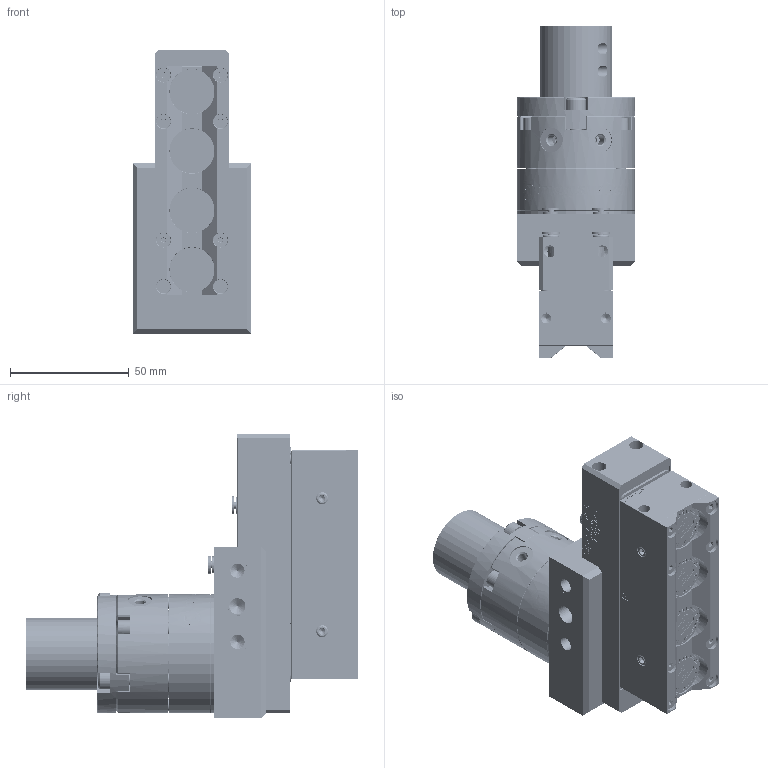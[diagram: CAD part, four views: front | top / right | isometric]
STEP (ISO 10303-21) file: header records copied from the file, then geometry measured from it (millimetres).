
FILE_DESCRIPTION (( 'STEP AP214' ), '1' );
FILE_NAME ('81401096_p.STEP', '2018-10-30T20:54:25', ( '' ), ( '' ), 'SwSTEP 2.0', 'SolidWorks 2018', '' );
FILE_SCHEMA (( 'AUTOMOTIVE_DESIGN' ));
Length unit declared in the file: millimetre
Products named in the file (2): 81401096_p
Bounding box: 50 x 139.76 x 119.5 mm (x, y, z)
Volume: 309052.2 mm3; surface area: 84114.1 mm2
Topology: 28 solids, 66 shells, 5675 faces, 14897 edges, 9656 vertices
Faces by surface type: plane 2103, bspline 1583, cylinder 1464, cone 470, torus 55
Entity records: 428342 total; most frequent: CARTESIAN_POINT 243152, ORIENTED_EDGE 29638, DIRECTION 19584, EDGE_CURVE 14819, VERTEX_POINT 9656, VECTOR 7594, LINE 7594, EDGE_LOOP 6153
